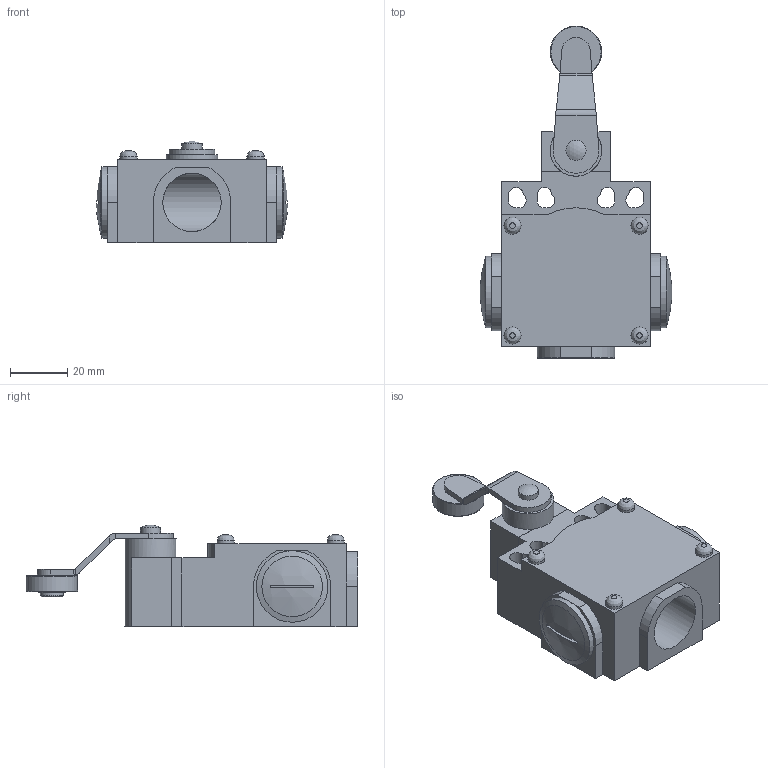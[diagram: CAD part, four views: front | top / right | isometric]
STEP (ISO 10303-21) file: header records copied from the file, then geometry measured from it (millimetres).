
FILE_DESCRIPTION((''),'2;1');
FILE_NAME('D:\Documenti_D\Corrispondenza\Comepi\Catalogo da fare\Modelli Nov 2011\DM e CM\STEP\DM1-F45.iam.step','2011-11-17T12:00:59',(''),(''),'Autodesk Inventor 2010','Autodesk Inventor 2010','');
FILE_SCHEMA(('AUTOMOTIVE_DESIGN { 1 0 10303 214 1 1 1 1 }'));
Length unit declared in the file: millimetre
Products named in the file (7): DM1-F45; DM1; tappo; T45.iam; T45_1; T45_2
Assembly tree (7 placements, depth 3):
  DM1-F45
    DM1
      DM1
      tappo  x2
    T45.iam
      T45_1
      T45_2
Bounding box: 66.83 x 116 x 35.51 mm (x, y, z)
Volume: 82119.1 mm3; surface area: 26876.5 mm2
Topology: 5 solids, 5 shells, 137 faces, 325 edges, 210 vertices
Faces by surface type: plane 77, cylinder 43, cone 6, bspline 4, torus 4, sphere 3
Full cylindrical faces by diameter (mm): 6 x6, 7 x1, 8 x1, 18 x2, 20.4 x2, 25 x2
Entity records: 4057 total; most frequent: CARTESIAN_POINT 903, DIRECTION 640, ORIENTED_EDGE 554, EDGE_CURVE 277, AXIS2_PLACEMENT_3D 235, VERTEX_POINT 194, EDGE_LOOP 177, VECTOR 170
